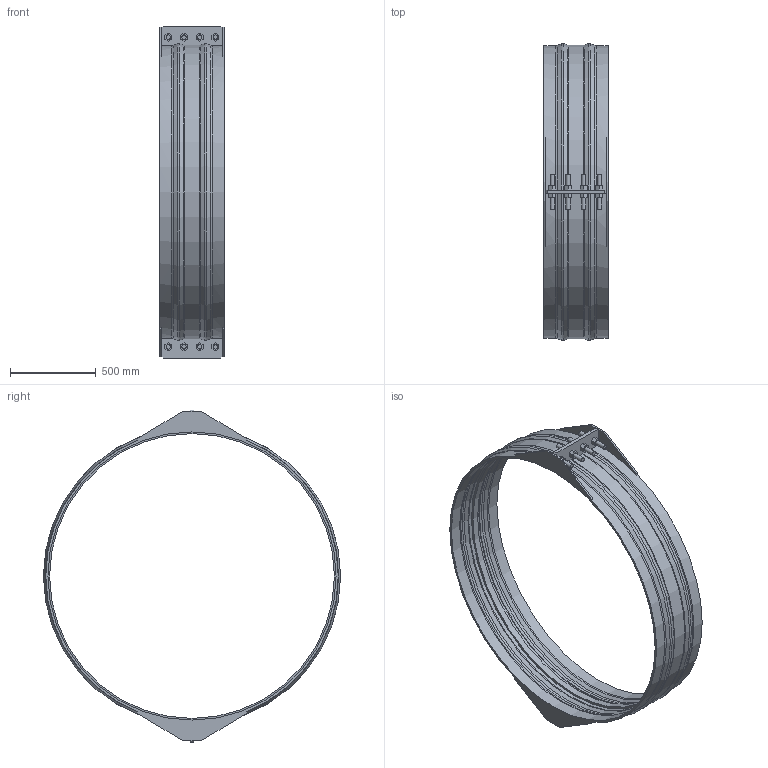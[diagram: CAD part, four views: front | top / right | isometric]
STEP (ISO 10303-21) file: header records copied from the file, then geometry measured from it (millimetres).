
FILE_DESCRIPTION(/* description */ ('VIC SS RESTRAINED COUPLING STYLE 233S (FLEX) (BRD)','CAx-IF Rec.Pracs.---Representation and Presentation of Product Manufacturing Information (PMI)---4.0---2014-10-13'),/* implementation_level */ '2;1');
FILE_NAME(/* name */ 'C:\Users\kkamble\AppData\Roaming\Autodesk\ApplicationPlugins\Back Up\Victaulic_VBSP_Coupling Flexible Restrained_Style 233S (BRD)\Victaulic_VBSP_Coupling Flexible Restrained_Style 233S (BRD)_100psi_66 (1650).stp',/* time_stamp */ '2020-09-22T18:30:54+05:00',/* author */ ('Vjadhav'),/* organization */ ('Victaulic'),/* preprocessor_version */ 'ST-DEVELOPER v17.2',/* originating_system */ 'Autodesk Inventor 2019',/* authorisation */ '');
FILE_SCHEMA (('AP242_MANAGED_MODEL_BASED_3D_ENGINEERING_MIM_LF { 1 0 10303 442 1 1 4 }'));
Length unit declared in the file: inch
Products named in the file (1): Style_233S_Type_2_100psi-66.0
Bounding box: 374.65 x 1728.49 x 1931.67 mm (x, y, z)
Volume: 32264077.5 mm3; surface area: 4950520 mm2
Topology: 1 solids, 1 shells, 239 faces, 625 edges, 422 vertices
Faces by surface type: plane 166, cylinder 43, torus 18, cone 12
Full cylindrical faces by diameter (mm): 25.4 x16, 1657.35 x1, 1676.4 x2, 1682.75 x2
Entity records: 7896 total; most frequent: CARTESIAN_POINT 1496, DIRECTION 1259, ORIENTED_EDGE 1250, EDGE_CURVE 625, LINE 449, VECTOR 449, VERTEX_POINT 422, AXIS2_PLACEMENT_3D 405
